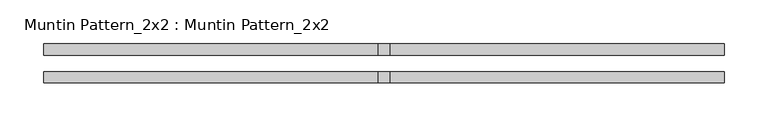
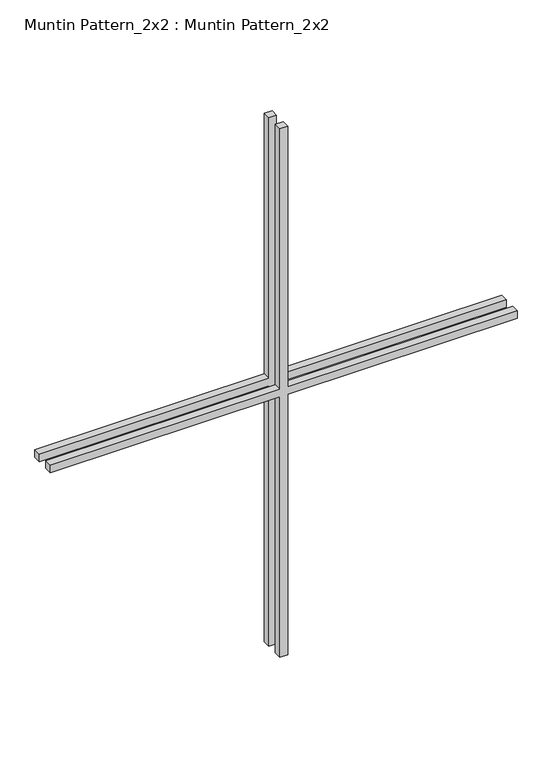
"""IFC4 building model written with IfcOpenShell, lengths in millimetres: proxy geometry, Muntin Pattern_2x2 : Muntin Pattern_2x2."""

from ifc_helpers import new_model, si_unit, frame, origin, place, context, project, spatial, polyline, outline, extrude, source, transform, mapped, element, save


def muntin_pattern_2x2_muntin_pattern_2x2_5e50c346(model_context):
    return source(origin(), model_context, "Body", "SweptSolid", [
        extrude(outline(polyline([(469.9, -6.35), (469.9, -387.35), (457.2, -387.35), (457.2, -6.35), (0.0, -6.35), (0.0, 6.35), (457.2, 6.35), (457.2, 387.35), (469.9, 387.35), (469.9, 6.35), (927.1, 6.35), (927.1, -6.35), (469.9, -6.35)])), frame((0.0, -22.225, 0.0), z_axis=(0.0, 1.0, 0.0), x_axis=(0.0, 0.0, 1.0)), (0.0, 0.0, 1.0), 12.7),
        extrude(outline(polyline([(469.9, -6.35), (469.9, -387.35), (457.2, -387.35), (457.2, -6.35), (0.0, -6.35), (0.0, 6.35), (457.2, 6.35), (457.2, 387.35), (469.9, 387.35), (469.9, 6.35), (927.1, 6.35), (927.1, -6.35), (469.9, -6.35)])), frame((0.0, 9.525, 0.0), z_axis=(0.0, 1.0, 0.0), x_axis=(0.0, 0.0, 1.0)), (0.0, 0.0, 1.0), 12.7),
    ])


if __name__ == "__main__":
    model = new_model("IFC4")
    model_context = context("Model", 3, world=origin())
    ifc_project = project(units=[si_unit("LENGTHUNIT", "METRE", prefix="MILLI")], contexts=[model_context])
    site = spatial("IfcSite", under=ifc_project)
    building = spatial("IfcBuilding", under=site)
    placement = place(None, origin())
    muntin_pattern_2x2_muntin_pattern_2x2_shape = muntin_pattern_2x2_muntin_pattern_2x2_5e50c346(model_context)
    element("IfcBuildingElementProxy", 1, Name="Muntin Pattern_2x2 : Muntin Pattern_2x2", ObjectType="Muntin Pattern_2x2 : Muntin Pattern_2x2", at=placement, inside=building, context=model_context, shape_type="MappedRepresentation", body=[
        mapped(muntin_pattern_2x2_muntin_pattern_2x2_shape, transform((0.0, 0.0, 0.0), x_axis=(1.0, 0.0, 0.0), y_axis=(0.0, 1.0, 0.0), z_axis=(0.0, 0.0, 1.0))),
    ])
    save(model, "model.ifc")
